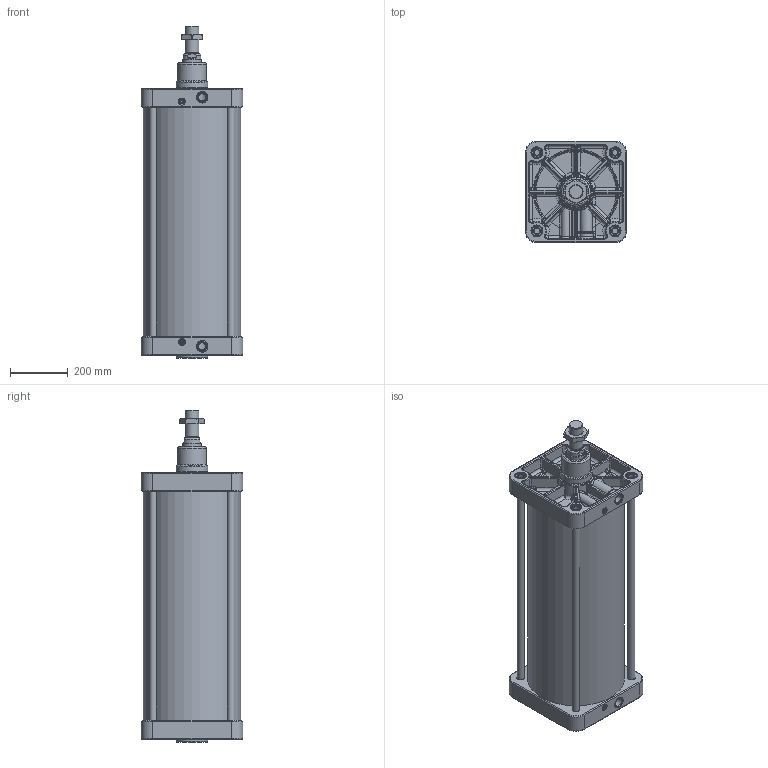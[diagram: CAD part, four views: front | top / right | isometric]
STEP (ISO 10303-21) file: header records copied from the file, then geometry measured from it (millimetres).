
FILE_DESCRIPTION(/* description */ (''),/* implementation_level */ '2;1');
FILE_NAME(/* name */ 'T:\Archivio Inventor\- 00 NUOVI STP PER SITO CON STELO CHE SI MUOVE\SERIE H - U\SERIE UDM\UDM320.---.GS.M\UDM320.700.GS.M.stp',/* time_stamp */ '2020-04-29T16:36:07+02:00',/* author */ ('carlo.corazza'),/* organization */ (''),/* preprocessor_version */ 'ST-DEVELOPER v16.5',/* originating_system */ 'Autodesk Inventor 2017',/* authorisation */ '');
FILE_SCHEMA (('AUTOMOTIVE_DESIGN { 1 0 10303 214 3 1 1 }'));
Length unit declared in the file: millimetre
Products named in the file (7): UDM320.700.GS.M; TP; STELO-700; TA; CORPO-700; TIRANTE-700; 29.2048.000.0
Assembly tree (9 placements, depth 2):
  UDM320.700.GS.M
    TP
    STELO-700
    TA
    TIRANTE-700  x4
    CORPO-700
    29.2048.000.0
Bounding box: 350 x 350 x 1146 mm (x, y, z)
Volume: 20364970.6 mm3; surface area: 3268800 mm2
Topology: 9 solids, 16 shells, 1710 faces, 3937 edges, 2221 vertices
Faces by surface type: cylinder 439, bspline 432, plane 380, torus 252, cone 115, sphere 92
Full cylindrical faces by diameter (mm): 8 x2, 9 x1, 10 x1, 11 x2, 11.2 x2, 12 x2, 12.376 x1, 13.4 x4, 14 x2, 15.8 x4, 16 x6, 20.752 x8, 24 x10, 24.5 x8, 25 x6, 30.291 x2, 36 x9, 37 x8, 40 x2, 44.8 x1, 45.835 x1, 48 x1, 62 x1, 63 x1, 64 x1, 64.293 x1, 65.8 x1, 73 x1, 75 x3, 100 x1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
Entity records: 64917 total; most frequent: CARTESIAN_POINT 27888, DIRECTION 7314, ORIENTED_EDGE 7088, EDGE_CURVE 3544, AXIS2_PLACEMENT_3D 3113, VERTEX_POINT 2134, EDGE_LOOP 1966, FACE_OUTER_BOUND 1683
